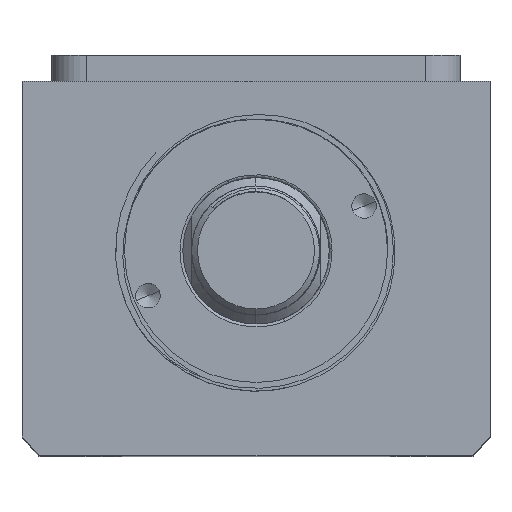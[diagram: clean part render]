
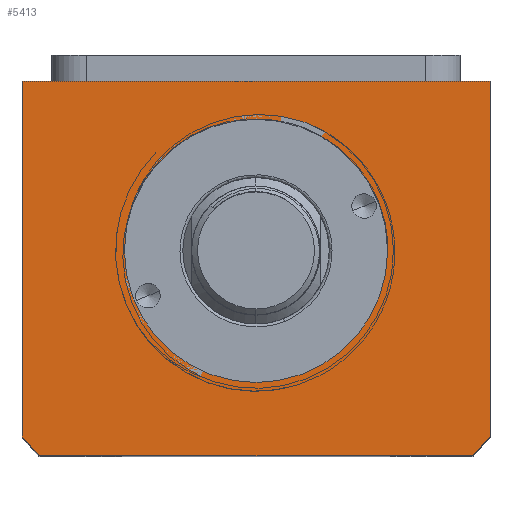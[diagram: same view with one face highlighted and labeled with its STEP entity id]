
A CAD part, top view. The second image highlights one B-rep face of the part: STEP entity #5413.
In plain terms, the highlighted planar face has unit normal (0, 0, 1).
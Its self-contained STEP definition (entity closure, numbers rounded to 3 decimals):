
#39 = CARTESIAN_POINT ( 'NONE',  ( 37.094, -75.507, 110. ) ) ;
#132 = LINE ( 'NONE', #14077, #10587 ) ;
#225 = DIRECTION ( 'NONE',  ( 0., 0., 1. ) ) ;
#264 = CARTESIAN_POINT ( 'NONE',  ( 40., -11.507, 110. ) ) ;
#783 = VERTEX_POINT ( 'NONE', #5969 ) ;
#864 = ORIENTED_EDGE ( 'NONE', *, *, #4545, .T. ) ;
#1187 = DIRECTION ( 'NONE',  ( 1., 0., 0. ) ) ;
#1300 = VECTOR ( 'NONE', #14677, 1000. ) ;
#1396 = CIRCLE ( 'NONE', #14031, 22.5 ) ;
#1683 = AXIS2_PLACEMENT_3D ( 'NONE', #11581, #3418, #12941 ) ;
#2486 = ORIENTED_EDGE ( 'NONE', *, *, #12952, .T. ) ;
#2506 = VERTEX_POINT ( 'NONE', #9664 ) ;
#2574 = CARTESIAN_POINT ( 'NONE',  ( 40., -11.507, 110. ) ) ;
#2834 = VECTOR ( 'NONE', #8009, 1000. ) ;
#2860 = CIRCLE ( 'NONE', #16363, 22.5 ) ;
#3418 = DIRECTION ( 'NONE',  ( 0., 0., 1. ) ) ;
#3565 = FACE_BOUND ( 'NONE', #12273, .T. ) ;
#3580 = VECTOR ( 'NONE', #9777, 1000. ) ;
#3595 = CARTESIAN_POINT ( 'NONE',  ( -40., -72.145, 110. ) ) ;
#3809 = CARTESIAN_POINT ( 'NONE',  ( -40., -75.507, 110. ) ) ;
#4545 = EDGE_CURVE ( 'NONE', #17322, #15298, #7645, .T. ) ;
#4546 = CARTESIAN_POINT ( 'NONE',  ( 0., -40.507, 110. ) ) ;
#5413 = ADVANCED_FACE ( 'NONE', ( #3565, #7185 ), #11467, .T. ) ;
#5497 = DIRECTION ( 'NONE',  ( 0., 0., 1. ) ) ;
#5564 = ORIENTED_EDGE ( 'NONE', *, *, #10815, .T. ) ;
#5909 = DIRECTION ( 'NONE',  ( 1., 0., 0. ) ) ;
#5923 = EDGE_CURVE ( 'NONE', #15298, #17353, #132, .T. ) ;
#5969 = CARTESIAN_POINT ( 'NONE',  ( 22.5, -40.507, 110. ) ) ;
#6452 = LINE ( 'NONE', #13398, #2834 ) ;
#7185 = FACE_OUTER_BOUND ( 'NONE', #17339, .T. ) ;
#7313 = DIRECTION ( 'NONE',  ( -1., 0., 0. ) ) ;
#7327 = AXIS2_PLACEMENT_3D ( 'NONE', #8393, #225, #9741 ) ;
#7645 = LINE ( 'NONE', #264, #3580 ) ;
#8009 = DIRECTION ( 'NONE',  ( 0., -1., 0. ) ) ;
#8393 = CARTESIAN_POINT ( 'NONE',  ( 0., -40.507, 110. ) ) ;
#8545 = CARTESIAN_POINT ( 'NONE',  ( 40., -72.145, 110. ) ) ;
#8967 = EDGE_CURVE ( 'NONE', #2506, #783, #2860, .T. ) ;
#9315 = EDGE_CURVE ( 'NONE', #16901, #17322, #11170, .T. ) ;
#9343 = DIRECTION ( 'NONE',  ( 0., 0., 1. ) ) ;
#9533 = ORIENTED_EDGE ( 'NONE', *, *, #11827, .T. ) ;
#9664 = CARTESIAN_POINT ( 'NONE',  ( -22.5, -40.507, 110. ) ) ;
#9672 = AXIS2_PLACEMENT_3D ( 'NONE', #4546, #14037, #5909 ) ;
#9741 = DIRECTION ( 'NONE',  ( 1., 0., 0. ) ) ;
#9777 = DIRECTION ( 'NONE',  ( 0., 1., 0. ) ) ;
#10587 = VECTOR ( 'NONE', #7313, 1000. ) ;
#10815 = EDGE_CURVE ( 'NONE', #17353, #15083, #6452, .T. ) ;
#11170 = CIRCLE ( 'NONE', #9672, 51. ) ;
#11206 = ORIENTED_EDGE ( 'NONE', *, *, #8967, .F. ) ;
#11467 = PLANE ( 'NONE',  #1683 ) ;
#11554 = EDGE_CURVE ( 'NONE', #783, #2506, #1396, .T. ) ;
#11581 = CARTESIAN_POINT ( 'NONE',  ( 0., 0., 110. ) ) ;
#11827 = EDGE_CURVE ( 'NONE', #15083, #15575, #16890, .T. ) ;
#12273 = EDGE_LOOP ( 'NONE', ( #14613, #11206 ) ) ;
#12758 = CARTESIAN_POINT ( 'NONE',  ( -37.094, -75.507, 110. ) ) ;
#12941 = DIRECTION ( 'NONE',  ( 1., 0., 0. ) ) ;
#12952 = EDGE_CURVE ( 'NONE', #15575, #16901, #15336, .T. ) ;
#13398 = CARTESIAN_POINT ( 'NONE',  ( -40., -11.507, 110. ) ) ;
#13624 = CARTESIAN_POINT ( 'NONE',  ( 0., -40.507, 110. ) ) ;
#14031 = AXIS2_PLACEMENT_3D ( 'NONE', #17429, #9343, #1187 ) ;
#14037 = DIRECTION ( 'NONE',  ( 0., 0., 1. ) ) ;
#14077 = CARTESIAN_POINT ( 'NONE',  ( -40., -11.507, 110. ) ) ;
#14613 = ORIENTED_EDGE ( 'NONE', *, *, #11554, .F. ) ;
#14677 = DIRECTION ( 'NONE',  ( 1., 0., 0. ) ) ;
#14953 = DIRECTION ( 'NONE',  ( 1., 0., 0. ) ) ;
#15083 = VERTEX_POINT ( 'NONE', #3595 ) ;
#15291 = CARTESIAN_POINT ( 'NONE',  ( -40., -11.507, 110. ) ) ;
#15298 = VERTEX_POINT ( 'NONE', #2574 ) ;
#15336 = LINE ( 'NONE', #3809, #1300 ) ;
#15461 = ORIENTED_EDGE ( 'NONE', *, *, #9315, .T. ) ;
#15575 = VERTEX_POINT ( 'NONE', #12758 ) ;
#16363 = AXIS2_PLACEMENT_3D ( 'NONE', #13624, #5497, #14953 ) ;
#16606 = ORIENTED_EDGE ( 'NONE', *, *, #5923, .T. ) ;
#16890 = CIRCLE ( 'NONE', #7327, 51. ) ;
#16901 = VERTEX_POINT ( 'NONE', #39 ) ;
#17322 = VERTEX_POINT ( 'NONE', #8545 ) ;
#17339 = EDGE_LOOP ( 'NONE', ( #5564, #9533, #2486, #15461, #864, #16606 ) ) ;
#17353 = VERTEX_POINT ( 'NONE', #15291 ) ;
#17429 = CARTESIAN_POINT ( 'NONE',  ( 0., -40.507, 110. ) ) ;
